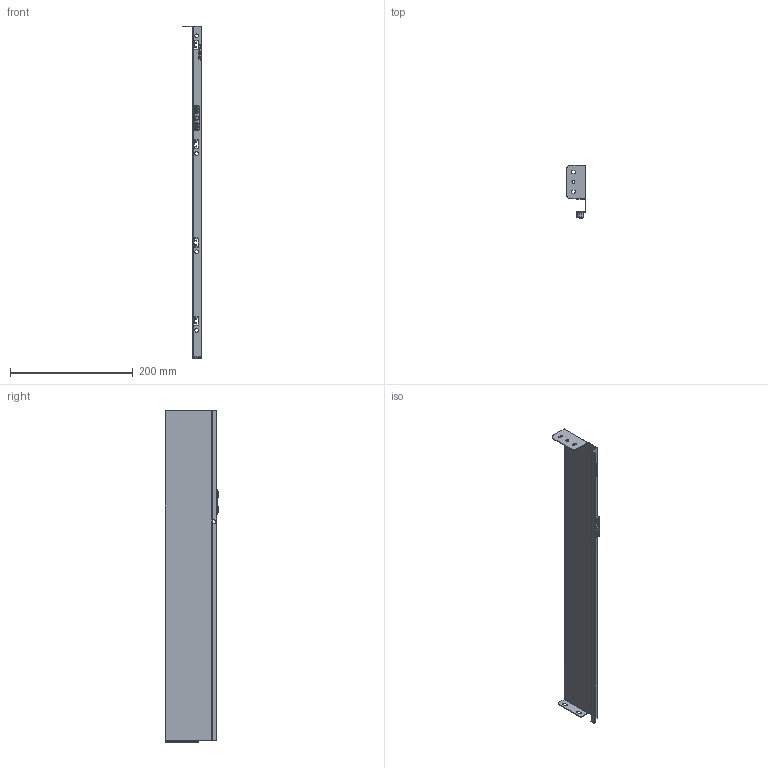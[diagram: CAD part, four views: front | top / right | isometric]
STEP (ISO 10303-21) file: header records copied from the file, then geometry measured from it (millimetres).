
FILE_DESCRIPTION (( 'STEP AP203' ), '1' );
FILE_NAME ('HL11550R.STEP', '2021-07-31T00:33:26', ( 'Users' ), ( 'Microsoft' ), 'SwSTEP 2.0', 'SolidWorks 2018', '' );
FILE_SCHEMA (( 'CONFIG_CONTROL_DESIGN' ));
Length unit declared in the file: millimetre
Products named in the file (1): HL11550R
Bounding box: 32.6 x 86.7 x 541.2 mm (x, y, z)
Volume: 68058.4 mm3; surface area: 112283.6 mm2
Topology: 1 solids, 1 shells, 435 faces, 1185 edges, 768 vertices
Faces by surface type: plane 166, cylinder 163, torus 55, bspline 49, cone 2
Entity records: 16543 total; most frequent: CARTESIAN_POINT 5384, ORIENTED_EDGE 2362, DIRECTION 2296, EDGE_CURVE 1181, AXIS2_PLACEMENT_3D 830, VERTEX_POINT 768, LINE 636, VECTOR 636
